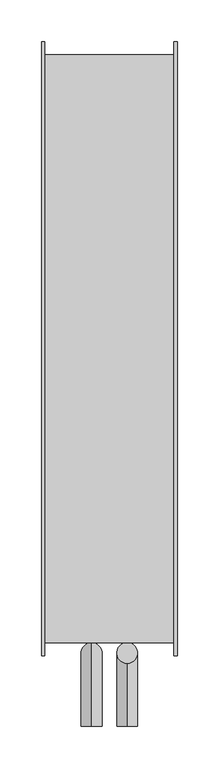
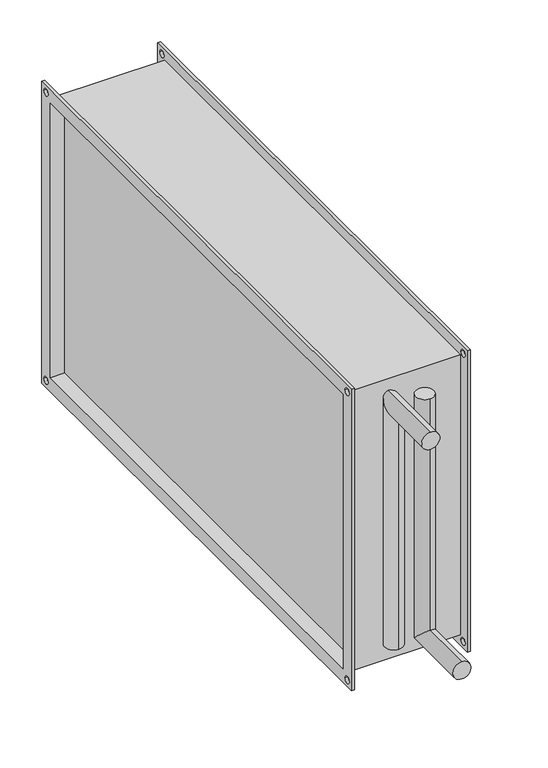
"""IFC4 building model written with IfcOpenShell, lengths in millimetres: proxy geometry, СВ_ВоздухонагревательВодяной_КанальныйПрямоугольный_200-1000_SPH-W : SPH-W-700x400/2."""

from ifc_helpers import new_model, si_unit, frame, origin, place, context, project, spatial, polyline, circle_curve, ellipse_curve, source, transform, mapped, element, save
from ifc_brep_helpers import plane_surface, cylinder_surface, revolved_surface, advanced_brep


def mechanical_equipment_0b54d464(model_context):
    return source(origin(), model_context, "Body", "AdvancedBrep", [
        advanced_brep(
        [(21.5, -354.0, 175.0), (21.5, -379.0, 175.0), (21.5, -354.0, -187.5), (21.5, -379.0, -162.5), (21.5, -455.0, -187.5), (21.5, -455.0, -162.5)],
        [
            (0, 1, circle_curve(frame((21.5, -366.5, 175.0), z_axis=(0.0, 0.0, 1.0), x_axis=(0.0, -1.0, 0.0)), 12.5)),
            (1, 0, circle_curve(frame((21.5, -366.5, 175.0), z_axis=(0.0, 0.0, 1.0), x_axis=(0.0, -1.0, 0.0)), 12.5)),
            (0, 2),
            (2, 3, ellipse_curve(frame((21.5, -366.5, -175.0), z_axis=(0.0, 0.7071067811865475, 0.7071067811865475), x_axis=(0.0, -0.7071067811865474, 0.7071067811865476)), 17.6776695, 12.5)),
            (3, 1),
            (3, 2, ellipse_curve(frame((21.5, -366.5, -175.0), z_axis=(0.0, 0.7071067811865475, 0.7071067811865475), x_axis=(0.0, -0.7071067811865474, 0.7071067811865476)), 17.6776695, 12.5)),
            (4, 5, circle_curve(frame((21.5, -455.0, -175.0), z_axis=(0.0, -1.0, 0.0), x_axis=(0.0, 0.0, 1.0)), 12.5)),
            (5, 4, circle_curve(frame((21.5, -455.0, -175.0), z_axis=(0.0, -1.0, 0.0), x_axis=(0.0, 0.0, 1.0)), 12.5)),
            (2, 4),
            (5, 3),
        ],
        [
            plane_surface(frame((21.5, -366.5, 175.0), z_axis=(0.0, 0.0, 1.0), x_axis=(-1.0, 0.0, 0.0))),
            cylinder_surface(frame((21.5, -366.5, 175.0), z_axis=(0.0, 0.0, 1.0), x_axis=(0.0, -1.0, 0.0)), 12.5),
            plane_surface(frame((21.5, -455.0, -175.0), z_axis=(0.0, -1.0, 0.0), x_axis=(-1.0, 0.0, 0.0))),
            cylinder_surface(frame((21.5, -366.5, -175.0), z_axis=(0.0, 1.0, 0.0), x_axis=(0.0, 0.0, 1.0)), 12.5),
        ],
        [
            (0, [[1, 2]]),
            (1, [[-1, 3, 4, 5]]),
            (1, [[-2, -5, 6, -3]]),
            (2, [[7, 8]]),
            (3, [[-4, 9, -8, 10]]),
            (3, [[-6, -10, -7, -9]]),
        ],
    ),
        advanced_brep(
        [(-21.5, -354.0, -175.0), (-21.5, -379.0, -175.0), (-21.5, -354.0, 187.5), (-21.5, -379.0, 162.5), (-21.5, -455.0, 187.5), (-21.5, -455.0, 162.5)],
        [
            (0, 1, circle_curve(frame((-21.5, -366.5, -175.0), z_axis=(0.0, 0.0, -1.0), x_axis=(0.0, -1.0, 0.0)), 12.5)),
            (1, 0, circle_curve(frame((-21.5, -366.5, -175.0), z_axis=(0.0, 0.0, -1.0), x_axis=(0.0, -1.0, 0.0)), 12.5)),
            (0, 2),
            (2, 3, ellipse_curve(frame((-21.5, -366.5, 175.0), z_axis=(0.0, 0.7071067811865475, -0.7071067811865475), x_axis=(0.0, -0.7071067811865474, -0.7071067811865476)), 17.6776695, 12.5)),
            (3, 1),
            (3, 2, ellipse_curve(frame((-21.5, -366.5, 175.0), z_axis=(0.0, 0.7071067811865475, -0.7071067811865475), x_axis=(0.0, -0.7071067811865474, -0.7071067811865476)), 17.6776695, 12.5)),
            (4, 5, circle_curve(frame((-21.5, -455.0, 175.0), z_axis=(0.0, -1.0, 0.0), x_axis=(0.0, 0.0, -1.0)), 12.5)),
            (5, 4, circle_curve(frame((-21.5, -455.0, 175.0), z_axis=(0.0, -1.0, 0.0), x_axis=(0.0, 0.0, -1.0)), 12.5)),
            (2, 4),
            (5, 3),
        ],
        [
            plane_surface(frame((-21.5, -366.5, -175.0), z_axis=(0.0, 0.0, -1.0), x_axis=(1.0, 0.0, 0.0))),
            cylinder_surface(frame((-21.5, -366.5, -175.0), z_axis=(0.0, 0.0, -1.0), x_axis=(0.0, -1.0, 0.0)), 12.5),
            plane_surface(frame((-21.5, -455.0, 175.0), z_axis=(0.0, -1.0, 0.0), x_axis=(1.0, 0.0, 0.0))),
            cylinder_surface(frame((-21.5, -366.5, 175.0), z_axis=(0.0, 1.0, 0.0), x_axis=(0.0, 0.0, -1.0)), 12.5),
        ],
        [
            (0, [[1, 2]]),
            (1, [[-1, 3, 4, 5]]),
            (1, [[-2, -5, 6, -3]]),
            (2, [[7, 8]]),
            (3, [[-4, 9, -8, 10]]),
            (3, [[-6, -10, -7, -9]]),
        ],
    ),
        advanced_brep(
        [(-78.0, -354.0, 204.0), (-78.0, -354.0, -204.0), (78.0, -354.0, -204.0), (78.0, -354.0, 204.0), (-78.0, 354.0, -204.0), (78.0, 354.0, -204.0), (-78.0, 354.0, 204.0), (78.0, 354.0, 204.0), (62.0, 350.0, -200.0), (62.0, 350.0, 200.0), (62.0, -350.0, 200.0), (62.0, -350.0, -200.0), (-62.0, -350.0, 200.0), (-62.0, 350.0, 200.0), (-62.0, 350.0, -200.0), (-62.0, -350.0, -200.0), (-82.0, -370.0, 220.0), (-82.0, 370.0, 220.0), (-82.0, 370.0, -220.0), (-82.0, -370.0, -220.0), (-82.0, -350.0, 200.0), (-82.0, -350.0, -200.0), (-82.0, 350.0, -200.0), (-82.0, 350.0, 200.0), (-82.0, 355.0, 210.0), (-82.0, 365.0, 210.0), (-82.0, -365.0, 210.0), (-82.0, -355.0, 210.0), (-82.0, -365.0, -210.0), (-82.0, -355.0, -210.0), (-82.0, 355.0, -210.0), (-82.0, 365.0, -210.0), (-78.0, -370.0, 220.0), (-78.0, -370.0, -220.0), (-78.0, 370.0, -220.0), (-78.0, 370.0, 220.0), (-78.0, 365.0, 210.0), (-78.0, 355.0, 210.0), (-78.0, -355.0, 210.0), (-78.0, -365.0, 210.0), (-78.0, -355.0, -210.0), (-78.0, -365.0, -210.0), (-78.0, 365.0, -210.0), (-78.0, 355.0, -210.0), (78.0, 370.0, 220.0), (78.0, 370.0, -220.0), (78.0, -370.0, -220.0), (78.0, -370.0, 220.0), (78.0, 355.0, 210.0), (78.0, 365.0, 210.0), (78.0, -365.0, 210.0), (78.0, -355.0, 210.0), (78.0, -365.0, -210.0), (78.0, -355.0, -210.0), (78.0, 355.0, -210.0), (78.0, 365.0, -210.0), (82.0, 370.0, 220.0), (82.0, -370.0, 220.0), (82.0, -370.0, -220.0), (82.0, 370.0, -220.0), (82.0, 350.0, 200.0), (82.0, 350.0, -200.0), (82.0, -350.0, -200.0), (82.0, -350.0, 200.0), (82.0, 365.0, 210.0), (82.0, 355.0, 210.0), (82.0, -355.0, 210.0), (82.0, -365.0, 210.0), (82.0, -355.0, -210.0), (82.0, -365.0, -210.0), (82.0, 365.0, -210.0), (82.0, 355.0, -210.0)],
        [
            (0, 1),
            (1, 2),
            (2, 3),
            (3, 0),
            (1, 4),
            (4, 5),
            (5, 2),
            (4, 6),
            (6, 7),
            (7, 5),
            (6, 0),
            (3, 7),
            (8, 9),
            (9, 10),
            (10, 11),
            (11, 8),
            (12, 13),
            (13, 14),
            (14, 15),
            (15, 12),
            (16, 17),
            (17, 18),
            (18, 19),
            (19, 16),
            (20, 21),
            (21, 22),
            (22, 23),
            (23, 20),
            (24, 25, circle_curve(frame((-82.0, 360.0, 210.0), z_axis=(1.0, 0.0, 0.0), x_axis=(0.0, -1.0, 0.0)), 5.0)),
            (25, 24, circle_curve(frame((-82.0, 360.0, 210.0), z_axis=(1.0, 0.0, 0.0), x_axis=(0.0, -1.0, 0.0)), 5.0)),
            (26, 27, circle_curve(frame((-82.0, -360.0, 210.0), z_axis=(1.0, 0.0, 0.0), x_axis=(0.0, -1.0, 0.0)), 5.0)),
            (27, 26, circle_curve(frame((-82.0, -360.0, 210.0), z_axis=(1.0, 0.0, 0.0), x_axis=(0.0, -1.0, 0.0)), 5.0)),
            (28, 29, circle_curve(frame((-82.0, -360.0, -210.0), z_axis=(1.0, 0.0, 0.0), x_axis=(0.0, -1.0, 0.0)), 5.0)),
            (29, 28, circle_curve(frame((-82.0, -360.0, -210.0), z_axis=(1.0, 0.0, 0.0), x_axis=(0.0, -1.0, 0.0)), 5.0)),
            (30, 31, circle_curve(frame((-82.0, 360.0, -210.0), z_axis=(1.0, 0.0, 0.0), x_axis=(0.0, -1.0, 0.0)), 5.0)),
            (31, 30, circle_curve(frame((-82.0, 360.0, -210.0), z_axis=(1.0, 0.0, 0.0), x_axis=(0.0, -1.0, 0.0)), 5.0)),
            (32, 33),
            (33, 34),
            (34, 35),
            (35, 32),
            (36, 37, circle_curve(frame((-78.0, 360.0, 210.0), z_axis=(-1.0, 0.0, 0.0), x_axis=(0.0, -1.0, 0.0)), 5.0)),
            (37, 36, circle_curve(frame((-78.0, 360.0, 210.0), z_axis=(-1.0, 0.0, 0.0), x_axis=(0.0, -1.0, 0.0)), 5.0)),
            (38, 39, circle_curve(frame((-78.0, -360.0, 210.0), z_axis=(-1.0, 0.0, 0.0), x_axis=(0.0, -1.0, 0.0)), 5.0)),
            (39, 38, circle_curve(frame((-78.0, -360.0, 210.0), z_axis=(-1.0, 0.0, 0.0), x_axis=(0.0, -1.0, 0.0)), 5.0)),
            (40, 41, circle_curve(frame((-78.0, -360.0, -210.0), z_axis=(-1.0, 0.0, 0.0), x_axis=(0.0, -1.0, 0.0)), 5.0)),
            (41, 40, circle_curve(frame((-78.0, -360.0, -210.0), z_axis=(-1.0, 0.0, 0.0), x_axis=(0.0, -1.0, 0.0)), 5.0)),
            (42, 43, circle_curve(frame((-78.0, 360.0, -210.0), z_axis=(-1.0, 0.0, 0.0), x_axis=(0.0, -1.0, 0.0)), 5.0)),
            (43, 42, circle_curve(frame((-78.0, 360.0, -210.0), z_axis=(-1.0, 0.0, 0.0), x_axis=(0.0, -1.0, 0.0)), 5.0)),
            (19, 33),
            (32, 16),
            (18, 34),
            (17, 35),
            (44, 45),
            (45, 46),
            (46, 47),
            (47, 44),
            (48, 49, circle_curve(frame((78.0, 360.0, 210.0), z_axis=(1.0, 0.0, 0.0), x_axis=(0.0, -1.0, 0.0)), 5.0)),
            (49, 48, circle_curve(frame((78.0, 360.0, 210.0), z_axis=(1.0, 0.0, 0.0), x_axis=(0.0, -1.0, 0.0)), 5.0)),
            (50, 51, circle_curve(frame((78.0, -360.0, 210.0), z_axis=(1.0, 0.0, 0.0), x_axis=(0.0, -1.0, 0.0)), 5.0)),
            (51, 50, circle_curve(frame((78.0, -360.0, 210.0), z_axis=(1.0, 0.0, 0.0), x_axis=(0.0, -1.0, 0.0)), 5.0)),
            (52, 53, circle_curve(frame((78.0, -360.0, -210.0), z_axis=(1.0, 0.0, 0.0), x_axis=(0.0, -1.0, 0.0)), 5.0)),
            (53, 52, circle_curve(frame((78.0, -360.0, -210.0), z_axis=(1.0, 0.0, 0.0), x_axis=(0.0, -1.0, 0.0)), 5.0)),
            (54, 55, circle_curve(frame((78.0, 360.0, -210.0), z_axis=(1.0, 0.0, 0.0), x_axis=(0.0, -1.0, 0.0)), 5.0)),
            (55, 54, circle_curve(frame((78.0, 360.0, -210.0), z_axis=(1.0, 0.0, 0.0), x_axis=(0.0, -1.0, 0.0)), 5.0)),
            (56, 57),
            (57, 58),
            (58, 59),
            (59, 56),
            (60, 61),
            (61, 62),
            (62, 63),
            (63, 60),
            (64, 65, circle_curve(frame((82.0, 360.0, 210.0), z_axis=(-1.0, 0.0, 0.0), x_axis=(0.0, -1.0, 0.0)), 5.0)),
            (65, 64, circle_curve(frame((82.0, 360.0, 210.0), z_axis=(-1.0, 0.0, 0.0), x_axis=(0.0, -1.0, 0.0)), 5.0)),
            (66, 67, circle_curve(frame((82.0, -360.0, 210.0), z_axis=(-1.0, 0.0, 0.0), x_axis=(0.0, -1.0, 0.0)), 5.0)),
            (67, 66, circle_curve(frame((82.0, -360.0, 210.0), z_axis=(-1.0, 0.0, 0.0), x_axis=(0.0, -1.0, 0.0)), 5.0)),
            (68, 69, circle_curve(frame((82.0, -360.0, -210.0), z_axis=(-1.0, 0.0, 0.0), x_axis=(0.0, -1.0, 0.0)), 5.0)),
            (69, 68, circle_curve(frame((82.0, -360.0, -210.0), z_axis=(-1.0, 0.0, 0.0), x_axis=(0.0, -1.0, 0.0)), 5.0)),
            (70, 71, circle_curve(frame((82.0, 360.0, -210.0), z_axis=(-1.0, 0.0, 0.0), x_axis=(0.0, -1.0, 0.0)), 5.0)),
            (71, 70, circle_curve(frame((82.0, 360.0, -210.0), z_axis=(-1.0, 0.0, 0.0), x_axis=(0.0, -1.0, 0.0)), 5.0)),
            (47, 57),
            (56, 44),
            (46, 58),
            (45, 59),
            (23, 13),
            (12, 20),
            (22, 14),
            (21, 15),
            (60, 9),
            (8, 61),
            (11, 62),
            (10, 63),
            (36, 25),
            (24, 37),
            (64, 49),
            (48, 65),
            (38, 27),
            (26, 39),
            (66, 51),
            (50, 67),
            (40, 29),
            (28, 41),
            (68, 53),
            (52, 69),
            (42, 31),
            (30, 43),
            (70, 55),
            (54, 71),
        ],
        [
            plane_surface(frame((-62.0, -354.0, 204.0), z_axis=(0.0, -1.0, 0.0), x_axis=(-1.0, 0.0, 0.0))),
            plane_surface(frame((-62.0, -354.0, -204.0), z_axis=(0.0, 0.0, -1.0), x_axis=(-1.0, 0.0, 0.0))),
            plane_surface(frame((-62.0, 354.0, -204.0), z_axis=(0.0, 1.0, 0.0), x_axis=(-1.0, 0.0, 0.0))),
            plane_surface(frame((-62.0, 354.0, 204.0), z_axis=(0.0, 0.0, 1.0), x_axis=(-1.0, 0.0, 0.0))),
            plane_surface(frame((62.0, -354.0, 204.0), z_axis=(1.0, 0.0, 0.0), x_axis=(0.0, 0.0, -1.0))),
            plane_surface(frame((-62.0, -354.0, 204.0), z_axis=(-1.0, 0.0, 0.0), x_axis=(0.0, 0.0, 1.0))),
            plane_surface(frame((-82.0, -370.0, 220.0), z_axis=(-1.0, 0.0, 0.0), x_axis=(0.0, 0.0, 1.0))),
            plane_surface(frame((-78.0, -370.0, 220.0), z_axis=(1.0, 0.0, 0.0), x_axis=(0.0, 0.0, -1.0))),
            plane_surface(frame((-78.0, -370.0, 220.0), z_axis=(0.0, -1.0, 0.0), x_axis=(-1.0, 0.0, 0.0))),
            plane_surface(frame((-78.0, -370.0, -220.0), z_axis=(0.0, 0.0, -1.0), x_axis=(-1.0, 0.0, 0.0))),
            plane_surface(frame((-78.0, 370.0, -220.0), z_axis=(0.0, 1.0, 0.0), x_axis=(-1.0, 0.0, 0.0))),
            plane_surface(frame((-78.0, 370.0, 220.0), z_axis=(0.0, 0.0, 1.0), x_axis=(-1.0, 0.0, 0.0))),
            plane_surface(frame((78.0, 350.0, -200.0), z_axis=(-1.0, 0.0, 0.0), x_axis=(0.0, 0.0, 1.0))),
            plane_surface(frame((82.0, 350.0, -200.0), z_axis=(1.0, 0.0, 0.0), x_axis=(0.0, 0.0, -1.0))),
            plane_surface(frame((82.0, 370.0, 220.0), z_axis=(0.0, 0.0, 1.0), x_axis=(-1.0, 0.0, 0.0))),
            plane_surface(frame((82.0, -370.0, 220.0), z_axis=(0.0, -1.0, 0.0), x_axis=(-1.0, 0.0, 0.0))),
            plane_surface(frame((82.0, -370.0, -220.0), z_axis=(0.0, 0.0, -1.0), x_axis=(-1.0, 0.0, 0.0))),
            plane_surface(frame((82.0, 370.0, -220.0), z_axis=(0.0, 1.0, 0.0), x_axis=(-1.0, 0.0, 0.0))),
            plane_surface(frame((-78.0, -350.0, 200.0), z_axis=(0.0, 0.0, -1.0), x_axis=(-1.0, 0.0, 0.0))),
            plane_surface(frame((-78.0, 350.0, 200.0), z_axis=(0.0, -1.0, 0.0), x_axis=(-1.0, 0.0, 0.0))),
            plane_surface(frame((-78.0, 350.0, -200.0), z_axis=(0.0, 0.0, 1.0), x_axis=(-1.0, 0.0, 0.0))),
            plane_surface(frame((-78.0, -350.0, -200.0), z_axis=(0.0, 1.0, 0.0), x_axis=(-1.0, 0.0, 0.0))),
            plane_surface(frame((82.0, 350.0, 200.0), z_axis=(0.0, -1.0, 0.0), x_axis=(-1.0, 0.0, 0.0))),
            plane_surface(frame((82.0, 350.0, -200.0), z_axis=(0.0, 0.0, 1.0), x_axis=(-1.0, 0.0, 0.0))),
            plane_surface(frame((82.0, -350.0, -200.0), z_axis=(0.0, 1.0, 0.0), x_axis=(-1.0, 0.0, 0.0))),
            plane_surface(frame((82.0, -350.0, 200.0), z_axis=(0.0, 0.0, -1.0), x_axis=(-1.0, 0.0, 0.0))),
            revolved_surface(polyline([(-82.0, 355.0, 210.0), (-78.0, 355.0, 210.0)]), (82.0, 360.0, 210.0), (-1.0, 0.0, 0.0)),
            revolved_surface(polyline([(78.0, 355.0, 210.0), (82.0, 355.0, 210.0)]), (82.0, 360.0, 210.0), (-1.0, 0.0, 0.0)),
            revolved_surface(polyline([(-82.0, -365.0, 210.0), (-78.0, -365.0, 210.0)]), (21.5, -360.0, 210.0), (-1.0, 0.0, 0.0)),
            revolved_surface(polyline([(78.0, -365.0, 210.0), (82.0, -365.0, 210.0)]), (21.5, -360.0, 210.0), (-1.0, 0.0, 0.0)),
            revolved_surface(polyline([(-82.0, -365.0, -210.0), (-78.0, -365.0, -210.0)]), (21.5, -360.0, -210.0), (-1.0, 0.0, 0.0)),
            revolved_surface(polyline([(78.0, -365.0, -210.0), (82.0, -365.0, -210.0)]), (21.5, -360.0, -210.0), (-1.0, 0.0, 0.0)),
            revolved_surface(polyline([(-82.0, 355.0, -210.0), (-78.0, 355.0, -210.0)]), (21.5, 360.0, -210.0), (-1.0, 0.0, 0.0)),
            revolved_surface(polyline([(78.0, 355.0, -210.0), (82.0, 355.0, -210.0)]), (21.5, 360.0, -210.0), (-1.0, 0.0, 0.0)),
        ],
        [
            (0, [[1, 2, 3, 4]]),
            (1, [[-2, 5, 6, 7]]),
            (2, [[-6, 8, 9, 10]]),
            (3, [[-9, 11, -4, 12]]),
            (4, [[13, 14, 15, 16]]),
            (5, [[17, 18, 19, 20]]),
            (6, [[21, 22, 23, 24], [25, 26, 27, 28], [29, 30], [31, 32], [33, 34], [35, 36]]),
            (7, [[37, 38, 39, 40], [-1, -11, -8, -5], [41, 42], [43, 44], [45, 46], [47, 48]]),
            (8, [[-24, 49, -37, 50]]),
            (9, [[-23, 51, -38, -49]]),
            (10, [[-22, 52, -39, -51]]),
            (11, [[-21, -50, -40, -52]]),
            (12, [[53, 54, 55, 56], [-3, -7, -10, -12], [57, 58], [59, 60], [61, 62], [63, 64]]),
            (13, [[65, 66, 67, 68], [69, 70, 71, 72], [73, 74], [75, 76], [77, 78], [79, 80]]),
            (14, [[-56, 81, -65, 82]]),
            (15, [[-55, 83, -66, -81]]),
            (16, [[-54, 84, -67, -83]]),
            (17, [[-53, -82, -68, -84]]),
            (18, [[-28, 85, -17, 86]]),
            (19, [[-27, 87, -18, -85]]),
            (20, [[-26, 88, -19, -87]]),
            (21, [[-25, -86, -20, -88]]),
            (22, [[-69, 89, -13, 90]]),
            (23, [[-70, -90, -16, 91]]),
            (24, [[-71, -91, -15, 92]]),
            (25, [[-89, -72, -92, -14]]),
            (26, [[93, -29, 94, -41]]),
            (27, [[95, -57, 96, -73]]),
            (26, [[-93, -42, -94, -30]]),
            (27, [[-95, -74, -96, -58]]),
            (28, [[97, -31, 98, -43]]),
            (29, [[99, -59, 100, -75]]),
            (28, [[-97, -44, -98, -32]]),
            (29, [[-99, -76, -100, -60]]),
            (30, [[101, -33, 102, -45]]),
            (31, [[103, -61, 104, -77]]),
            (30, [[-101, -46, -102, -34]]),
            (31, [[-103, -78, -104, -62]]),
            (32, [[105, -35, 106, -47]]),
            (33, [[107, -63, 108, -79]]),
            (32, [[-105, -48, -106, -36]]),
            (33, [[-107, -80, -108, -64]]),
        ],
    ),
    ])


if __name__ == "__main__":
    model = new_model("IFC4")
    model_context = context("Model", 3, world=origin())
    ifc_project = project(units=[si_unit("LENGTHUNIT", "METRE", prefix="MILLI")], contexts=[model_context])
    site = spatial("IfcSite", under=ifc_project)
    building = spatial("IfcBuilding", under=site)
    placement = place(None, origin())
    mechanical_equipment_shape = mechanical_equipment_0b54d464(model_context)
    element("IfcBuildingElementProxy", 1, Name="СВ_ВоздухонагревательВодяной_КанальныйПрямоугольный_200-1000_SPH-W : SPH-W-700x400/2", ObjectType="СВ_ВоздухонагревательВодяной_КанальныйПрямоугольный_200-1000_SPH-W : SPH-W-700x400/2", at=placement, inside=building, context=model_context, shape_type="MappedRepresentation", body=[
        mapped(mechanical_equipment_shape, transform((0.0, 0.0, 0.0), x_axis=(1.0, 0.0, 0.0), y_axis=(0.0, 1.0, 0.0), z_axis=(0.0, 0.0, 1.0))),
    ])
    save(model, "model.ifc")
